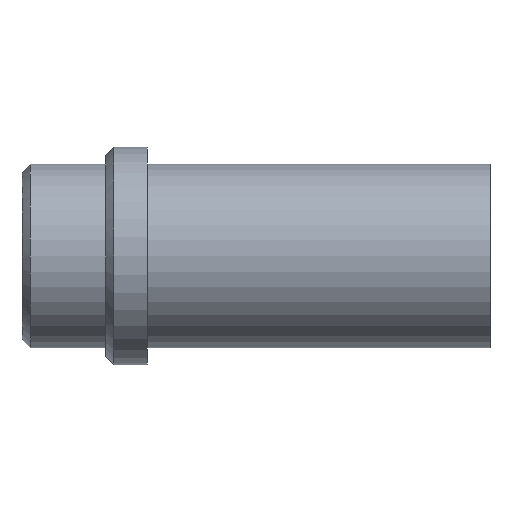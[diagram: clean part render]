
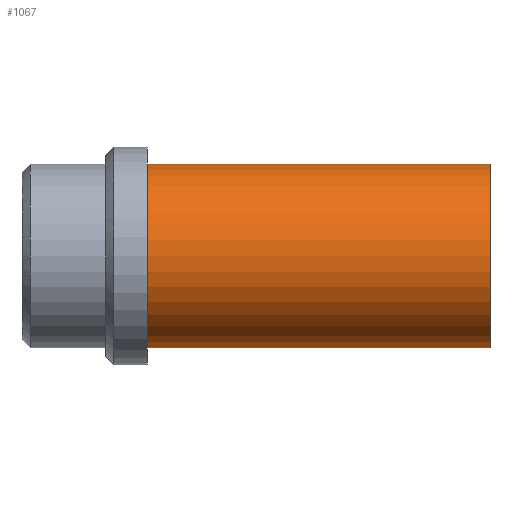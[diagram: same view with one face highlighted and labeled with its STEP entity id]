
A CAD part, front view. The second image highlights one B-rep face of the part: STEP entity #1067.
In plain terms, the highlighted cylindrical face has radius 11 mm (diameter 22 mm), a partial arc.
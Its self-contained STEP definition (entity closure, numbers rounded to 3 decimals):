
#953=CARTESIAN_POINT('Vertex',(0.,0.,-11.)) ;
#958=CARTESIAN_POINT('Axis2P3D Location',(0.,0.,0.)) ;
#962=CARTESIAN_POINT('Vertex',(0.,-11.,0.)) ;
#965=CARTESIAN_POINT('Axis2P3D Location',(0.,0.,0.)) ;
#969=CARTESIAN_POINT('Vertex',(0.,0.,11.)) ;
#995=CARTESIAN_POINT('Vertex',(41.,0.,11.)) ;
#998=CARTESIAN_POINT('Axis2P3D Location',(41.,0.,0.)) ;
#1002=CARTESIAN_POINT('Vertex',(41.,-11.,0.)) ;
#1005=CARTESIAN_POINT('Axis2P3D Location',(41.,0.,0.)) ;
#1009=CARTESIAN_POINT('Vertex',(41.,0.,-11.)) ;
#1035=CARTESIAN_POINT('Line Origine',(41.,0.,11.)) ;
#1040=CARTESIAN_POINT('Line Origine',(41.,0.,-11.)) ;
#1054=CARTESIAN_POINT('Axis2P3D Location',(41.,0.,0.)) ;
#959=DIRECTION('Axis2P3D Direction',(1.,0.,-0.)) ;
#966=DIRECTION('Axis2P3D Direction',(1.,0.,-0.)) ;
#999=DIRECTION('Axis2P3D Direction',(1.,0.,-0.)) ;
#1006=DIRECTION('Axis2P3D Direction',(1.,0.,-0.)) ;
#1036=DIRECTION('Vector Direction',(-1.,0.,0.)) ;
#1041=DIRECTION('Vector Direction',(-1.,0.,0.)) ;
#1055=DIRECTION('Axis2P3D Direction',(-1.,-0.,-0.)) ;
#1056=DIRECTION('Axis2P3D XDirection',(0.,0.,-1.)) ;
#960=AXIS2_PLACEMENT_3D('Circle Axis2P3D',#958,#959,$) ;
#967=AXIS2_PLACEMENT_3D('Circle Axis2P3D',#965,#966,$) ;
#1000=AXIS2_PLACEMENT_3D('Circle Axis2P3D',#998,#999,$) ;
#1007=AXIS2_PLACEMENT_3D('Circle Axis2P3D',#1005,#1006,$) ;
#1057=AXIS2_PLACEMENT_3D('Cylinder Axis2P3D',#1054,#1055,#1056) ;
#1060=ORIENTED_EDGE('',*,*,#1044,.T.) ;
#1061=ORIENTED_EDGE('',*,*,#1011,.F.) ;
#1062=ORIENTED_EDGE('',*,*,#1004,.F.) ;
#1063=ORIENTED_EDGE('',*,*,#1039,.T.) ;
#1064=ORIENTED_EDGE('',*,*,#971,.T.) ;
#1065=ORIENTED_EDGE('',*,*,#964,.T.) ;
#1037=VECTOR('Line Direction',#1036,1.) ;
#1042=VECTOR('Line Direction',#1041,1.) ;
#1067=ADVANCED_FACE('358-16X56',(#1066),#1058,.T.) ;
#961=CIRCLE('generated circle',#960,11.) ;
#968=CIRCLE('generated circle',#967,11.) ;
#1001=CIRCLE('generated circle',#1000,11.) ;
#1008=CIRCLE('generated circle',#1007,11.) ;
#1058=CYLINDRICAL_SURFACE('generated cylinder',#1057,11.) ;
#964=EDGE_CURVE('',#963,#954,#961,.T.) ;
#971=EDGE_CURVE('',#970,#963,#968,.T.) ;
#1004=EDGE_CURVE('',#996,#1003,#1001,.T.) ;
#1011=EDGE_CURVE('',#1003,#1010,#1008,.T.) ;
#1039=EDGE_CURVE('',#996,#970,#1038,.T.) ;
#1044=EDGE_CURVE('',#954,#1010,#1043,.F.) ;
#1059=EDGE_LOOP('',(#1060,#1061,#1062,#1063,#1064,#1065)) ;
#1066=FACE_OUTER_BOUND('',#1059,.T.) ;
#1038=LINE('Line',#1035,#1037) ;
#1043=LINE('Line',#1040,#1042) ;
#954=VERTEX_POINT('',#953) ;
#963=VERTEX_POINT('',#962) ;
#970=VERTEX_POINT('',#969) ;
#996=VERTEX_POINT('',#995) ;
#1003=VERTEX_POINT('',#1002) ;
#1010=VERTEX_POINT('',#1009) ;
